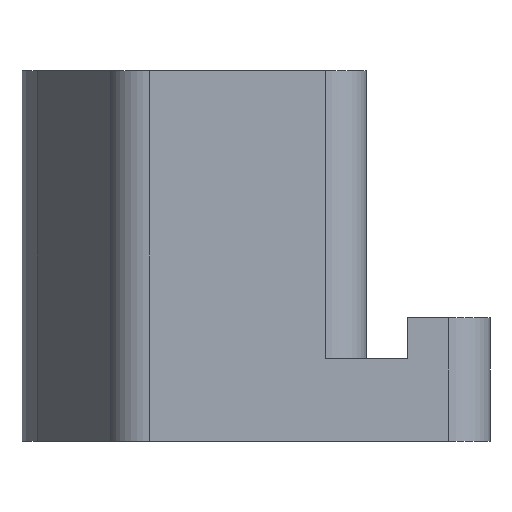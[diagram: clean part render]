
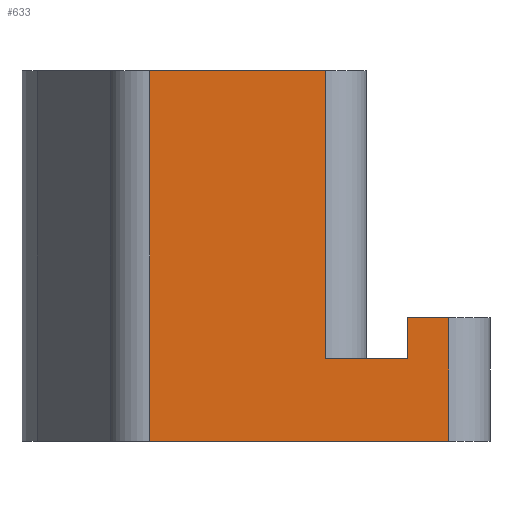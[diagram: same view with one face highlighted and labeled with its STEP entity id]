
A CAD part, left-side view. The second image highlights one B-rep face of the part: STEP entity #633.
In plain terms, the highlighted planar face has unit normal (-1, 0, 0).
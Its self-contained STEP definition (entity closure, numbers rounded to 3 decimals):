
#62=FACE_OUTER_BOUND('',#99,.T.);
#99=EDGE_LOOP('',(#551,#552,#553,#554,#555,#556,#557,#558));
#109=LINE('',#931,#169);
#139=LINE('',#1019,#199);
#143=LINE('',#1029,#203);
#144=LINE('',#1032,#204);
#148=LINE('',#1051,#208);
#158=LINE('',#1077,#218);
#159=LINE('',#1081,#219);
#160=LINE('',#1082,#220);
#169=VECTOR('',#738,10.);
#199=VECTOR('',#826,10.);
#203=VECTOR('',#834,10.);
#204=VECTOR('',#837,10.);
#208=VECTOR('',#859,10.);
#218=VECTOR('',#887,10.);
#219=VECTOR('',#892,10.);
#220=VECTOR('',#893,10.);
#263=VERTEX_POINT('',#928);
#264=VERTEX_POINT('',#930);
#293=VERTEX_POINT('',#1018);
#294=VERTEX_POINT('',#1022);
#297=VERTEX_POINT('',#1027);
#298=VERTEX_POINT('',#1031);
#311=VERTEX_POINT('',#1076);
#312=VERTEX_POINT('',#1080);
#323=EDGE_CURVE('',#264,#263,#109,.T.);
#367=EDGE_CURVE('',#293,#264,#139,.T.);
#372=EDGE_CURVE('',#297,#294,#143,.T.);
#373=EDGE_CURVE('',#298,#294,#144,.T.);
#382=EDGE_CURVE('',#297,#293,#148,.T.);
#395=EDGE_CURVE('',#311,#298,#158,.T.);
#397=EDGE_CURVE('',#312,#263,#159,.T.);
#398=EDGE_CURVE('',#311,#312,#160,.T.);
#551=ORIENTED_EDGE('',*,*,#397,.F.);
#552=ORIENTED_EDGE('',*,*,#398,.F.);
#553=ORIENTED_EDGE('',*,*,#395,.T.);
#554=ORIENTED_EDGE('',*,*,#373,.T.);
#555=ORIENTED_EDGE('',*,*,#372,.F.);
#556=ORIENTED_EDGE('',*,*,#382,.T.);
#557=ORIENTED_EDGE('',*,*,#367,.T.);
#558=ORIENTED_EDGE('',*,*,#323,.T.);
#601=PLANE('',#715);
#633=ADVANCED_FACE('',(#62),#601,.T.);
#715=AXIS2_PLACEMENT_3D('',#1079,#890,#891);
#738=DIRECTION('',(0.,1.,0.));
#826=DIRECTION('',(0.,0.,1.));
#834=DIRECTION('',(0.,0.,1.));
#837=DIRECTION('',(0.,1.,0.));
#859=DIRECTION('',(0.,1.,0.));
#887=DIRECTION('',(0.,0.,1.));
#890=DIRECTION('center_axis',(-1.,0.,0.));
#891=DIRECTION('ref_axis',(0.,0.,1.));
#892=DIRECTION('',(0.,0.,1.));
#893=DIRECTION('',(0.,1.,0.));
#928=CARTESIAN_POINT('',(0.,16.532,18.));
#930=CARTESIAN_POINT('',(0.,8.,18.));
#931=CARTESIAN_POINT('',(0.,16.532,18.));
#1018=CARTESIAN_POINT('',(0.,8.,4.));
#1019=CARTESIAN_POINT('',(0.,8.,4.));
#1022=CARTESIAN_POINT('',(0.,4.,6.));
#1027=CARTESIAN_POINT('',(0.,4.,4.));
#1029=CARTESIAN_POINT('',(0.,4.,4.));
#1031=CARTESIAN_POINT('',(0.,2.,6.));
#1032=CARTESIAN_POINT('',(0.,4.,6.));
#1051=CARTESIAN_POINT('',(0.,16.532,4.));
#1076=CARTESIAN_POINT('',(0.,2.,0.));
#1077=CARTESIAN_POINT('',(0.,2.,0.));
#1079=CARTESIAN_POINT('Origin',(0.,2.,0.));
#1080=CARTESIAN_POINT('',(0.,16.532,0.));
#1081=CARTESIAN_POINT('',(0.,16.532,0.));
#1082=CARTESIAN_POINT('',(0.,2.,0.));
